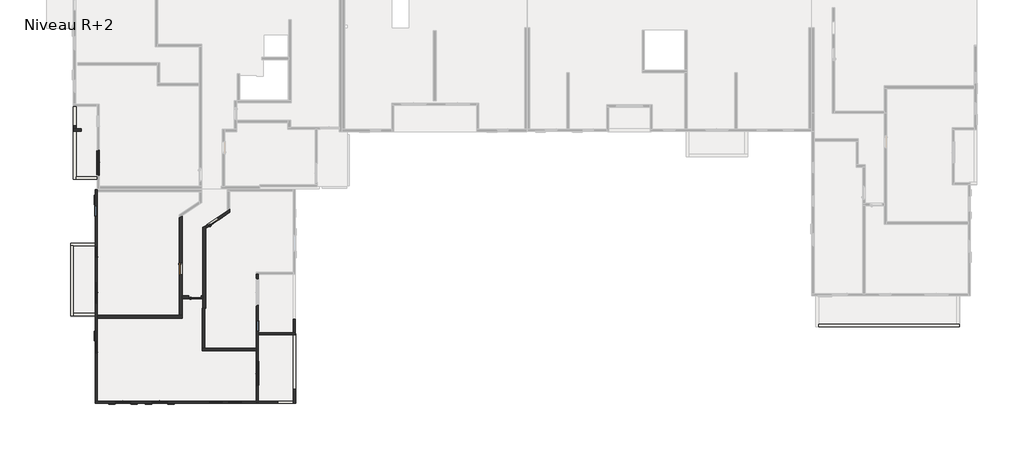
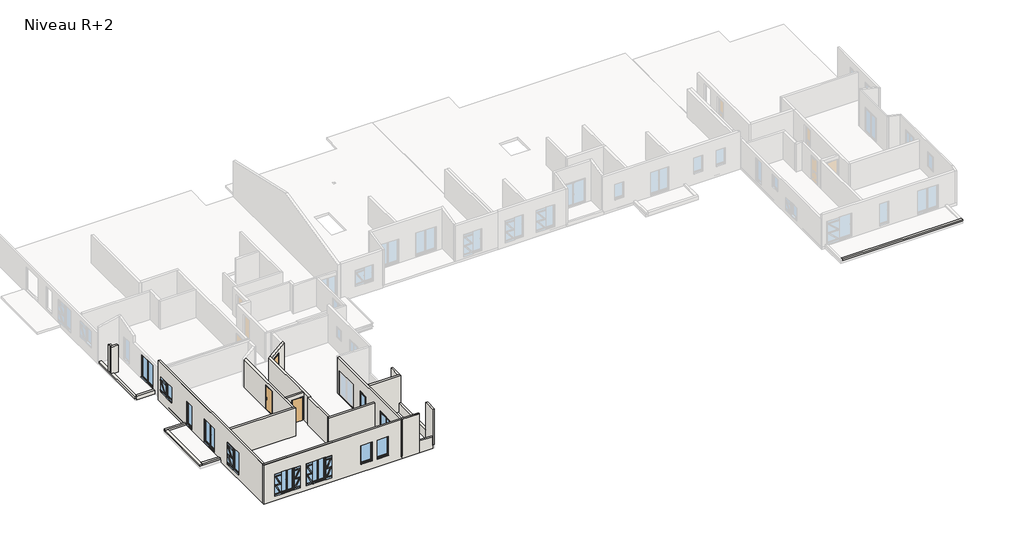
# One storey, part 1 of 7: 24 walls, 11 windows, 3 doors.
"""IFC4 building model written with IfcOpenShell, lengths in millimetres."""

from ifc_helpers import new_model, si_unit, frame, origin, place, context, project, spatial, polyline, outline, extrude, faceted_brep, transform, mapped, element, save
from components import door_6208809c, window_f6eb430b, window_0_80m_x_2_05m_45d8a1b5, window_0_80m_x_2_15m_73fb6ae2, window_1_vantail_droit_db0ce4d6, window_1_00m_x_1_75m_f7db58c6, window_1_10m_x_2_05m_0457a856, window_1_60m_x_2_15m_1bfb613b, window_1_80m_x_2_15m_7d3a4370

model = new_model("IFC4")

# Units and contexts
model_context = context("Model", 3, world=origin())
ifc_project = project(units=[si_unit("LENGTHUNIT", "METRE", prefix="MILLI")], contexts=[model_context])

# Site, building, storey
site = spatial("IfcSite", under=ifc_project)
building = spatial("IfcBuilding", under=site)
storey = spatial("IfcBuildingStorey", under=building, Name="Niveau R+2", Elevation=6120.0)

# Doors
placement = place(None, origin())
door_shape = door_6208809c(model_context)
element("IfcDoor", 1, ObjectType="Entrée (avec angle d'ouverture) : PP Lisse (0.90 m x 2.15 m)", at=placement, inside=storey, context=model_context, shape_type="MappedRepresentation", body=[
    mapped(door_shape, transform((12738.9344904, 1911.6114807, 6120.0), x_axis=(1.0, 0.0, 0.0), y_axis=(0.0, 1.0, 0.0), z_axis=(0.0, 0.0, 1.0))),
])
element("IfcDoor", 2, ObjectType="Entrée (avec angle d'ouverture) : PP Lisse (0.90 m x 2.15 m)", at=placement, inside=storey, context=model_context, shape_type="MappedRepresentation", body=[
    mapped(door_shape, transform((11654.0730744, 4064.6107801, 6120.0), x_axis=(0.0, -1.0, 0.0), y_axis=(1.0, 0.0, 0.0), z_axis=(0.0, 0.0, 1.0))),
])
element("IfcDoor", 3, ObjectType="Entrée (avec angle d'ouverture) : PP Lisse (0.90 m x 2.15 m)", at=placement, inside=storey, context=model_context, shape_type="MappedRepresentation", body=[
    mapped(door_shape, transform((14099.7641367, 7598.9331745, 6120.0), x_axis=(0.8253883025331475, 0.5645654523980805, 0.0), y_axis=(-0.5645654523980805, 0.8253883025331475, 0.0), z_axis=(0.0, 0.0, 1.0))),
])

# Walls
element("IfcWall", 4, ObjectType="Ext. Voile BA 16 + 2 + 2", at=placement, inside=storey, context=model_context, shape_type="Brep", body=[
    faceted_brep([(17442.934101, -6105.1620119, 5830.0), (17522.934101, -6105.1620119, 5830.0), (18982.9329233, -6105.1620119, 5830.0), (18982.9329233, -6105.1620119, 6920.0), (18982.9329233, -6105.1620119, 9490.0), (17442.934101, -6105.1620119, 9490.0), (17442.934101, -6105.1620119, 9450.0), (17522.934101, -6105.1620119, 9450.0), (17522.934101, -6105.1620119, 6030.0), (17442.934101, -6105.1620119, 6030.0), (17442.934101, -5945.1620119, 5830.0), (17442.934101, -5945.1620119, 6030.0), (17522.934101, -5945.1620119, 6030.0), (17522.934101, -5945.1620119, 9450.0), (17442.934101, -5945.1620119, 9450.0), (17442.934101, -5945.1620119, 9490.0), (18982.9329233, -5945.1620119, 9490.0), (18982.9329233, -5945.1620119, 6920.0), (18982.9329233, -5945.1620119, 5830.0), (17522.934101, -5945.1620119, 5830.0), (18982.9329233, -6068.9495262, 9490.0), (17442.934101, -6068.9495262, 9490.0)], [[[0, 1, 2, 3, 4, 5, 6, 7, 8, 9]], [[10, 11, 12, 13, 14, 15, 16, 17, 18, 19]], [[2, 1, 0, 10, 19, 18]], [[4, 3, 2, 18, 17, 16, 20]], [[20, 16, 15, 21]], [[5, 4, 20, 21]], [[0, 9, 11, 10]], [[8, 12, 11, 9]], [[6, 5, 21, 15, 14]], [[6, 14, 13, 7]], [[8, 7, 13, 12]]]),
])
element("IfcWall", 5, ObjectType="Ext. Voile BA 16 + 2 + 2", at=placement, inside=storey, context=model_context, shape_type="Brep", body=[
    faceted_brep([(20327.8598396, -6105.1620119, 6120.0), (20327.8598396, -5045.6481556, 6120.0), (20327.8598396, -5045.6481556, 6930.0), (20327.8598396, -5045.6481556, 9490.0), (20327.8598396, -6105.1620119, 9490.0), (20167.8598396, -6105.1620119, 6120.0), (20167.8598396, -6105.1620119, 6920.0), (20167.8598396, -6105.1620119, 9490.0), (20167.8598396, -5045.6481556, 9490.0), (20167.8598396, -5045.6481556, 6930.0), (20167.8598396, -5045.6481556, 6120.0), (20325.920738, -5045.6481556, 9490.0), (20325.920738, -6105.1620119, 9490.0)], [[[0, 1, 2, 3, 4]], [[5, 6, 7, 8, 9, 10]], [[1, 0, 5, 10]], [[3, 2, 1, 10, 9, 8, 11]], [[11, 8, 7, 12]], [[4, 3, 11, 12]], [[0, 4, 12, 7, 6, 5]]]),
])
element("IfcWall", 6, ObjectType="Ext. Voile BA 16 + 2 + 2", at=placement, inside=storey, context=model_context, shape_type="Brep", body=[
    faceted_brep([(17535.920738, -934.9801512, 6120.0), (20315.920738, -934.9801512, 6120.0), (20315.920738, -934.9801512, 9490.0), (17535.920738, -934.9801512, 9490.0), (17535.920738, -774.9801512, 6120.0), (17535.920738, -774.9801512, 9490.0), (20155.920738, -774.9801512, 9490.0), (20315.920738, -774.9801512, 9490.0), (20315.920738, -774.9801512, 6120.0), (20155.920738, -774.9801512, 6120.0)], [[[0, 1, 2, 3]], [[4, 5, 6, 7, 8, 9]], [[1, 0, 4, 9, 8]], [[3, 2, 7, 6, 5]], [[0, 3, 5, 4]], [[2, 1, 8, 7]]]),
])
element("IfcWall", 7, ObjectType="Ext. Voile BA 16 + 2 + 2", at=placement, inside=storey, context=model_context, shape_type="Brep", body=[
    faceted_brep([(20315.920738, -774.9801512, 6120.0), (20315.920738, 265.0198488, 6120.0), (20315.920738, 265.0198488, 6930.0), (20315.920738, 265.0198488, 9490.0), (20315.920738, -774.9801512, 9490.0), (20155.920738, -774.9801512, 6120.0), (20155.920738, -774.9801512, 9490.0), (20155.920738, 265.0198488, 9490.0), (20155.920738, 265.0198488, 6930.0), (20155.920738, 265.0198488, 6120.0)], [[[0, 1, 2, 3, 4]], [[5, 6, 7, 8, 9]], [[1, 0, 5, 9]], [[3, 2, 1, 9, 8, 7]], [[4, 3, 7, 6]], [[0, 4, 6, 5]]]),
])
element("IfcWall", 8, ObjectType="Ext. Voile BA 16 + 2 + 2", at=placement, inside=storey, context=model_context, shape_type="Brep", body=[
    faceted_brep([(20327.8598396, -5045.6481556, 6030.0), (20327.8598396, -834.9801512, 6030.0), (20327.8598396, -834.9801512, 6930.0), (20327.8598396, -5045.6481556, 6930.0), (20327.8598396, -5045.6481556, 6120.0), (20167.8598396, -5045.6481556, 6030.0), (20167.8598396, -5045.6481556, 6120.0), (20167.8598396, -5045.6481556, 6930.0), (20167.8598396, -834.9801512, 6930.0), (20167.8598396, -834.9801512, 6030.0)], [[[0, 1, 2, 3, 4]], [[5, 6, 7, 8, 9]], [[1, 0, 5, 9]], [[2, 1, 9, 8]], [[3, 2, 8, 7]], [[0, 4, 3, 7, 6, 5]]]),
])
element("IfcWall", 9, ObjectType="Ext. Voile BA 16 + 2 + 2", at=placement, inside=storey, context=model_context, shape_type="Brep", body=[
    faceted_brep([(18982.9329233, -6105.1620119, 5830.0), (20167.8598396, -6105.1620119, 5830.0), (20167.8598396, -6105.1620119, 6120.0), (20167.8598396, -6105.1620119, 6920.0), (18982.9329233, -6105.1620119, 6920.0), (18982.9329233, -5945.1620119, 5830.0), (18982.9329233, -5945.1620119, 6920.0), (20167.8598396, -5945.1620119, 6920.0), (20167.8598396, -5945.1620119, 5830.0)], [[[0, 1, 2, 3, 4]], [[5, 6, 7, 8]], [[1, 0, 5, 8]], [[4, 3, 7, 6]], [[0, 4, 6, 5]], [[1, 8, 7, 3, 2]]]),
])
element("IfcWall", 10, ObjectType="Ext. Voile BA 16 + Isolant 120", at=placement, inside=storey, context=model_context, shape_type="Brep", body=[
    faceted_brep([(17362.934101, 3635.465256, 6030.0), (17362.934101, -1937.3575704, 6030.0), (17362.934101, -2137.3575704, 6030.0), (17362.934101, -5945.1620119, 6030.0), (17362.934101, -6105.1620119, 6030.0), (17362.934101, -6105.1620119, 9450.0), (17362.934101, -5945.1620119, 9450.0), (17362.934101, 3635.465256, 9450.0), (17362.934101, -4787.3575704, 6155.0), (17362.934101, -2887.3575704, 6155.0), (17362.934101, -2887.3575704, 8355.0), (17362.934101, -4787.3575704, 8355.0), (17362.934101, -710.0285448, 6855.0), (17362.934101, 189.9714552, 6855.0), (17362.934101, 189.9714552, 8355.0), (17362.934101, -710.0285448, 8355.0), (17362.934101, 1245.465256, 6155.0), (17362.934101, 3345.465256, 6155.0), (17362.934101, 3345.465256, 8355.0), (17362.934101, 1245.465256, 8355.0), (17522.934101, 3635.465256, 6030.0), (17522.934101, 3635.465256, 9450.0), (17522.934101, -5945.1620119, 9450.0), (17522.934101, -6105.1620119, 9450.0), (17522.934101, -6105.1620119, 6030.0), (17522.934101, -5945.1620119, 6030.0), (17522.934101, -2937.3575704, 8305.0), (17522.934101, -2937.3575704, 6146.5916612), (17522.934101, -4737.3575704, 6146.5916612), (17522.934101, -4737.3575704, 8305.0), (17522.934101, 139.9714552, 8305.0), (17522.934101, 139.9714552, 6775.0), (17522.934101, -660.0285448, 6775.0), (17522.934101, -660.0285448, 8305.0), (17522.934101, 3295.465256, 8305.0), (17522.934101, 3295.465256, 6146.5916612), (17522.934101, 1295.465256, 6146.5916612), (17522.934101, 1295.465256, 8305.0), (17442.934101, -6105.1620119, 6030.0), (17442.934101, -6105.1620119, 9450.0), (17442.934101, -2937.3575704, 6155.0), (17462.934101, -2937.3575704, 8305.0), (17462.934101, -2937.3575704, 6155.0), (17442.934101, -4737.3575704, 6155.0), (17462.934101, -4737.3575704, 6155.0), (17462.934101, -4737.3575704, 8305.0), (17462.934101, -2927.3575704, 6155.0), (17412.934101, -2927.3575704, 6155.0), (17412.934101, -2887.3575704, 6155.0), (17412.934101, -4787.3575704, 6155.0), (17412.934101, -4747.3575704, 6155.0), (17462.934101, -4747.3575704, 6155.0), (17412.934101, -2887.3575704, 8355.0), (17412.934101, -2927.3575704, 8315.0), (17412.934101, -4747.3575704, 8315.0), (17412.934101, -4787.3575704, 8355.0), (17462.934101, -2927.3575704, 8315.0), (17462.934101, -4747.3575704, 8315.0), (17442.934101, 139.9714552, 6855.0), (17442.934101, 139.9714552, 6775.0), (17462.934101, 139.9714552, 8305.0), (17462.934101, 139.9714552, 6855.0), (17442.934101, -660.0285448, 6775.0), (17442.934101, -660.0285448, 6855.0), (17462.934101, -660.0285448, 6855.0), (17462.934101, -660.0285448, 8305.0), (17462.934101, 149.9714552, 6855.0), (17412.934101, 149.9714552, 6855.0), (17412.934101, 189.9714552, 6855.0), (17412.934101, -710.0285448, 6855.0), (17412.934101, -670.0285448, 6855.0), (17462.934101, -670.0285448, 6855.0), (17412.934101, 189.9714552, 8355.0), (17412.934101, 149.9714552, 8315.0), (17412.934101, -670.0285448, 8315.0), (17412.934101, -710.0285448, 8355.0), (17462.934101, 149.9714552, 8315.0), (17462.934101, -670.0285448, 8315.0), (17442.934101, 3295.465256, 6155.0), (17462.934101, 3295.465256, 8305.0), (17462.934101, 3295.465256, 6155.0), (17442.934101, 1295.465256, 6155.0), (17462.934101, 1295.465256, 6155.0), (17462.934101, 1295.465256, 8305.0), (17462.934101, 3305.465256, 6155.0), (17412.934101, 3305.465256, 6155.0), (17412.934101, 3345.465256, 6155.0), (17412.934101, 1245.465256, 6155.0), (17412.934101, 1285.465256, 6155.0), (17462.934101, 1285.465256, 6155.0), (17412.934101, 3345.465256, 8355.0), (17412.934101, 3305.465256, 8315.0), (17412.934101, 1285.465256, 8315.0), (17412.934101, 1245.465256, 8355.0), (17462.934101, 3305.465256, 8315.0), (17462.934101, 1285.465256, 8315.0)], [[[0, 1, 2, 3, 4, 5, 6, 7], [8, 9, 10, 11], [12, 13, 14, 15], [16, 17, 18, 19]], [[20, 21, 22, 23, 24, 25], [26, 27, 28, 29], [30, 31, 32, 33], [34, 35, 36, 37]], [[4, 3, 2, 1, 0, 20, 25, 24, 38]], [[7, 6, 5, 39, 23, 22, 21]], [[0, 7, 21, 20]], [[40, 27, 26, 41, 42]], [[28, 43, 44, 45, 29]], [[40, 43, 28, 27]], [[26, 29, 45, 41]], [[43, 40, 42, 46, 47, 48, 9, 8, 49, 50, 51, 44]], [[9, 48, 52, 10]], [[48, 47, 53, 54, 50, 49, 55, 52]], [[47, 46, 56, 53]], [[46, 42, 41, 45, 44, 51, 57, 56]], [[10, 52, 55, 11]], [[54, 53, 56, 57]], [[55, 49, 8, 11]], [[50, 54, 57, 51]], [[58, 59, 31, 30, 60, 61]], [[62, 63, 64, 65, 33, 32]], [[59, 62, 32, 31]], [[59, 58, 63, 62]], [[30, 33, 65, 60]], [[63, 58, 61, 66, 67, 68, 13, 12, 69, 70, 71, 64]], [[13, 68, 72, 14]], [[68, 67, 73, 74, 70, 69, 75, 72]], [[67, 66, 76, 73]], [[66, 61, 60, 65, 64, 71, 77, 76]], [[14, 72, 75, 15]], [[74, 73, 76, 77]], [[75, 69, 12, 15]], [[70, 74, 77, 71]], [[78, 35, 34, 79, 80]], [[36, 81, 82, 83, 37]], [[78, 81, 36, 35]], [[34, 37, 83, 79]], [[81, 78, 80, 84, 85, 86, 17, 16, 87, 88, 89, 82]], [[17, 86, 90, 18]], [[86, 85, 91, 92, 88, 87, 93, 90]], [[85, 84, 94, 91]], [[84, 80, 79, 83, 82, 89, 95, 94]], [[18, 90, 93, 19]], [[92, 91, 94, 95]], [[93, 87, 16, 19]], [[88, 92, 95, 89]], [[5, 4, 38, 24, 23, 39]]]),
])
element("IfcWall", 11, ObjectType="Ext. Voile BA 16 + Isolant 120", at=placement, inside=storey, context=model_context, shape_type="Brep", body=[
    faceted_brep([(17442.934101, -5945.1620119, 5830.0), (17362.934101, -5945.1620119, 5830.0), (5344.2512184, -5945.1620119, 5830.0), (5184.2512184, -5945.1620119, 5830.0), (5184.2512184, -5945.1620119, 9490.0), (5204.2512184, -5945.1620119, 9490.0), (5344.2512184, -5945.1620119, 9490.0), (17442.934101, -5945.1620119, 9490.0), (17442.934101, -5945.1620119, 9450.0), (17362.934101, -5945.1620119, 9450.0), (17362.934101, -5945.1620119, 6030.0), (17442.934101, -5945.1620119, 6030.0), (6684.2512184, -5945.1620119, 6255.0), (7884.2512184, -5945.1620119, 6255.0), (7884.2512184, -5945.1620119, 8355.0), (6684.2512184, -5945.1620119, 8355.0), (9464.2512184, -5945.1620119, 6255.0), (10664.2512184, -5945.1620119, 6255.0), (10664.2512184, -5945.1620119, 8355.0), (9464.2512184, -5945.1620119, 8355.0), (13752.934101, -5945.1620119, 6555.0), (14852.934101, -5945.1620119, 6555.0), (14852.934101, -5945.1620119, 8355.0), (13752.934101, -5945.1620119, 8355.0), (15202.934101, -5945.1620119, 6555.0), (16302.934101, -5945.1620119, 6555.0), (16302.934101, -5945.1620119, 8355.0), (15202.934101, -5945.1620119, 8355.0), (17442.934101, -6105.1620119, 5830.0), (17442.934101, -6105.1620119, 6030.0), (17362.934101, -6105.1620119, 6030.0), (17362.934101, -6105.1620119, 9450.0), (17442.934101, -6105.1620119, 9450.0), (17442.934101, -6105.1620119, 9490.0), (5184.2512184, -6105.1620119, 9490.0), (5184.2512184, -6105.1620119, 5830.0), (17362.934101, -6105.1620119, 5830.0), (7834.2512184, -6105.1620119, 8305.0), (7834.2512184, -6105.1620119, 6246.5916612), (6734.2512184, -6105.1620119, 6246.5916612), (6734.2512184, -6105.1620119, 8305.0), (10614.2512184, -6105.1620119, 8305.0), (10614.2512184, -6105.1620119, 6246.5916612), (9514.2512184, -6105.1620119, 6246.5916612), (9514.2512184, -6105.1620119, 8305.0), (14802.934101, -6105.1620119, 8305.0), (14802.934101, -6105.1620119, 6546.5916612), (13802.934101, -6105.1620119, 6546.5916612), (13802.934101, -6105.1620119, 8305.0), (16252.934101, -6105.1620119, 8305.0), (16252.934101, -6105.1620119, 6546.5916612), (15252.934101, -6105.1620119, 6546.5916612), (15252.934101, -6105.1620119, 8305.0), (5184.2512184, -6068.9495262, 9490.0), (7834.2512184, -6025.1620119, 6255.0), (7834.2512184, -6045.1620119, 8305.0), (7834.2512184, -6045.1620119, 6255.0), (6734.2512184, -6025.1620119, 6255.0), (6734.2512184, -6045.1620119, 6255.0), (6734.2512184, -6045.1620119, 8305.0), (7844.2512184, -6045.1620119, 6255.0), (7844.2512184, -5995.1620119, 6255.0), (7884.2512184, -5995.1620119, 6255.0), (6684.2512184, -5995.1620119, 6255.0), (6724.2512184, -5995.1620119, 6255.0), (6724.2512184, -6045.1620119, 6255.0), (7884.2512184, -5995.1620119, 8355.0), (7844.2512184, -5995.1620119, 8315.0), (6724.2512184, -5995.1620119, 8315.0), (6684.2512184, -5995.1620119, 8355.0), (7844.2512184, -6045.1620119, 8315.0), (6724.2512184, -6045.1620119, 8315.0), (10614.2512184, -6025.1620119, 6255.0), (10614.2512184, -6045.1620119, 8305.0), (10614.2512184, -6045.1620119, 6255.0), (9514.2512184, -6025.1620119, 6255.0), (9514.2512184, -6045.1620119, 6255.0), (9514.2512184, -6045.1620119, 8305.0), (10624.2512184, -6045.1620119, 6255.0), (10624.2512184, -5995.1620119, 6255.0), (10664.2512184, -5995.1620119, 6255.0), (9464.2512184, -5995.1620119, 6255.0), (9504.2512184, -5995.1620119, 6255.0), (9504.2512184, -6045.1620119, 6255.0), (10664.2512184, -5995.1620119, 8355.0), (10624.2512184, -5995.1620119, 8315.0), (9504.2512184, -5995.1620119, 8315.0), (9464.2512184, -5995.1620119, 8355.0), (10624.2512184, -6045.1620119, 8315.0), (9504.2512184, -6045.1620119, 8315.0), (14802.934101, -6025.1620119, 6555.0), (14802.934101, -6045.1620119, 8305.0), (14802.934101, -6045.1620119, 6555.0), (13802.934101, -6025.1620119, 6555.0), (13802.934101, -6045.1620119, 6555.0), (13802.934101, -6045.1620119, 8305.0), (14812.934101, -6045.1620119, 6555.0), (14812.934101, -5995.1620119, 6555.0), (14852.934101, -5995.1620119, 6555.0), (13752.934101, -5995.1620119, 6555.0), (13792.934101, -5995.1620119, 6555.0), (13792.934101, -6045.1620119, 6555.0), (14852.934101, -5995.1620119, 8355.0), (14812.934101, -5995.1620119, 8315.0), (13792.934101, -5995.1620119, 8315.0), (13752.934101, -5995.1620119, 8355.0), (14812.934101, -6045.1620119, 8315.0), (13792.934101, -6045.1620119, 8315.0), (16252.934101, -6025.1620119, 6555.0), (16252.934101, -6045.1620119, 8305.0), (16252.934101, -6045.1620119, 6555.0), (15252.934101, -6025.1620119, 6555.0), (15252.934101, -6045.1620119, 6555.0), (15252.934101, -6045.1620119, 8305.0), (16262.934101, -6045.1620119, 6555.0), (16262.934101, -5995.1620119, 6555.0), (16302.934101, -5995.1620119, 6555.0), (15202.934101, -5995.1620119, 6555.0), (15242.934101, -5995.1620119, 6555.0), (15242.934101, -6045.1620119, 6555.0), (16302.934101, -5995.1620119, 8355.0), (16262.934101, -5995.1620119, 8315.0), (15242.934101, -5995.1620119, 8315.0), (15202.934101, -5995.1620119, 8355.0), (16262.934101, -6045.1620119, 8315.0), (15242.934101, -6045.1620119, 8315.0), (5204.2512184, -6068.9495262, 9490.0), (17442.934101, -6068.9495262, 9490.0)], [[[0, 1, 2, 3, 4, 5, 6, 7, 8, 9, 10, 11], [12, 13, 14, 15], [16, 17, 18, 19], [20, 21, 22, 23], [24, 25, 26, 27]], [[28, 29, 30, 31, 32, 33, 34, 35, 36], [37, 38, 39, 40], [41, 42, 43, 44], [45, 46, 47, 48], [49, 50, 51, 52]], [[3, 2, 1, 0, 28, 36, 35]], [[4, 3, 35, 34, 53]], [[54, 38, 37, 55, 56]], [[39, 57, 58, 59, 40]], [[54, 57, 39, 38]], [[37, 40, 59, 55]], [[57, 54, 56, 60, 61, 62, 13, 12, 63, 64, 65, 58]], [[13, 62, 66, 14]], [[62, 61, 67, 68, 64, 63, 69, 66]], [[61, 60, 70, 67]], [[60, 56, 55, 59, 58, 65, 71, 70]], [[14, 66, 69, 15]], [[68, 67, 70, 71]], [[69, 63, 12, 15]], [[64, 68, 71, 65]], [[72, 42, 41, 73, 74]], [[43, 75, 76, 77, 44]], [[72, 75, 43, 42]], [[41, 44, 77, 73]], [[75, 72, 74, 78, 79, 80, 17, 16, 81, 82, 83, 76]], [[17, 80, 84, 18]], [[80, 79, 85, 86, 82, 81, 87, 84]], [[79, 78, 88, 85]], [[78, 74, 73, 77, 76, 83, 89, 88]], [[18, 84, 87, 19]], [[86, 85, 88, 89]], [[87, 81, 16, 19]], [[82, 86, 89, 83]], [[90, 46, 45, 91, 92]], [[47, 93, 94, 95, 48]], [[90, 93, 47, 46]], [[45, 48, 95, 91]], [[93, 90, 92, 96, 97, 98, 21, 20, 99, 100, 101, 94]], [[21, 98, 102, 22]], [[98, 97, 103, 104, 100, 99, 105, 102]], [[97, 96, 106, 103]], [[96, 92, 91, 95, 94, 101, 107, 106]], [[22, 102, 105, 23]], [[104, 103, 106, 107]], [[105, 99, 20, 23]], [[100, 104, 107, 101]], [[108, 50, 49, 109, 110]], [[51, 111, 112, 113, 52]], [[108, 111, 51, 50]], [[49, 52, 113, 109]], [[111, 108, 110, 114, 115, 116, 25, 24, 117, 118, 119, 112]], [[25, 116, 120, 26]], [[116, 115, 121, 122, 118, 117, 123, 120]], [[115, 114, 124, 121]], [[114, 110, 109, 113, 112, 119, 125, 124]], [[26, 120, 123, 27]], [[122, 121, 124, 125]], [[123, 117, 24, 27]], [[118, 122, 125, 119]], [[7, 6, 5, 126, 127]], [[33, 127, 126, 5, 4, 53, 34]], [[0, 11, 29, 28]], [[8, 7, 127, 33, 32]], [[10, 9, 31, 30]], [[10, 30, 29, 11]], [[8, 32, 31, 9]]]),
])
element("IfcWall", 12, ObjectType="Ext. Voile BA 16 + Isolant 120", at=placement, inside=storey, context=model_context, shape_type="Brep", body=[
    faceted_brep([(5344.2512184, -5945.1620119, 5830.0), (5344.2512184, 10055.4625547, 5830.0), (5344.2512184, 10055.4625547, 6030.0), (5344.2512184, 10055.4625547, 8650.0), (5344.2512184, 10055.4625547, 8850.0), (5344.2512184, 10065.4658562, 8850.0), (5344.2512184, 10065.4658562, 9490.0), (5344.2512184, -5945.1620119, 9490.0), (5344.2512184, 8875.4658562, 6855.0), (5344.2512184, 7975.4658562, 6855.0), (5344.2512184, 7975.4658562, 8255.0), (5344.2512184, 8875.4658562, 8255.0), (5344.2512184, 5775.4658562, 6155.0), (5344.2512184, 4875.4658562, 6155.0), (5344.2512184, 4875.4658562, 8355.0), (5344.2512184, 5775.4658562, 8355.0), (5344.2512184, 3091.1262359, 6155.0), (5344.2512184, 1391.1262359, 6155.0), (5344.2512184, 1391.1262359, 8355.0), (5344.2512184, 3091.1262359, 8355.0), (5344.2512184, -1408.8737641, 6255.0), (5344.2512184, -2308.8737641, 6255.0), (5344.2512184, -2308.8737641, 8355.0), (5344.2512184, -1408.8737641, 8355.0), (5184.2512184, -5945.1620119, 5830.0), (5184.2512184, -5945.1620119, 9490.0), (5184.2512184, 10065.4658562, 9490.0), (5184.2512184, 10065.4658562, 8850.0), (5184.2512184, 10055.4625547, 8850.0), (5184.2512184, 10055.4625547, 5830.0), (5184.2512184, 8025.4658562, 8205.0), (5184.2512184, 8025.4658562, 6775.0), (5184.2512184, 8825.4658562, 6775.0), (5184.2512184, 8825.4658562, 8205.0), (5184.2512184, 4925.4658562, 8305.0), (5184.2512184, 4925.4658562, 6146.5916612), (5184.2512184, 5725.4658562, 6146.5916612), (5184.2512184, 5725.4658562, 8305.0), (5184.2512184, 1441.1262359, 8305.0), (5184.2512184, 1441.1262359, 6146.5916612), (5184.2512184, 3041.1262359, 6146.5916612), (5184.2512184, 3041.1262359, 8305.0), (5184.2512184, -2258.8737641, 8305.0), (5184.2512184, -2258.8737641, 6246.5916612), (5184.2512184, -1458.8737641, 6246.5916612), (5184.2512184, -1458.8737641, 8305.0), (5204.2512184, -5945.1620119, 9490.0), (5264.2512184, 8025.4658562, 6855.0), (5264.2512184, 8025.4658562, 6775.0), (5244.2512184, 8025.4658562, 8205.0), (5244.2512184, 8025.4658562, 6855.0), (5264.2512184, 8825.4658562, 6775.0), (5264.2512184, 8825.4658562, 6855.0), (5244.2512184, 8825.4658562, 6855.0), (5244.2512184, 8825.4658562, 8205.0), (5244.2512184, 8015.4658562, 6855.0), (5294.2512184, 8015.4658562, 6855.0), (5294.2512184, 7975.4658562, 6855.0), (5294.2512184, 8875.4658562, 6855.0), (5294.2512184, 8835.4658562, 6855.0), (5244.2512184, 8835.4658562, 6855.0), (5294.2512184, 7975.4658562, 8255.0), (5294.2512184, 8015.4658562, 8215.0), (5294.2512184, 8835.4658562, 8215.0), (5294.2512184, 8875.4658562, 8255.0), (5244.2512184, 8015.4658562, 8215.0), (5244.2512184, 8835.4658562, 8215.0), (5264.2512184, 4925.4658562, 6155.0), (5244.2512184, 4925.4658562, 8305.0), (5244.2512184, 4925.4658562, 6155.0), (5264.2512184, 5725.4658562, 6155.0), (5244.2512184, 5725.4658562, 6155.0), (5244.2512184, 5725.4658562, 8305.0), (5244.2512184, 4915.4658562, 6155.0), (5294.2512184, 4915.4658562, 6155.0), (5294.2512184, 4875.4658562, 6155.0), (5294.2512184, 5775.4658562, 6155.0), (5294.2512184, 5735.4658562, 6155.0), (5244.2512184, 5735.4658562, 6155.0), (5294.2512184, 4875.4658562, 8355.0), (5294.2512184, 4915.4658562, 8315.0), (5294.2512184, 5735.4658562, 8315.0), (5294.2512184, 5775.4658562, 8355.0), (5244.2512184, 4915.4658562, 8315.0), (5244.2512184, 5735.4658562, 8315.0), (5264.2512184, 1441.1262359, 6155.0), (5244.2512184, 1441.1262359, 8305.0), (5244.2512184, 1441.1262359, 6155.0), (5264.2512184, 3041.1262359, 6155.0), (5244.2512184, 3041.1262359, 6155.0), (5244.2512184, 3041.1262359, 8305.0), (5244.2512184, 1431.1262359, 6155.0), (5294.2512184, 1431.1262359, 6155.0), (5294.2512184, 1391.1262359, 6155.0), (5294.2512184, 3091.1262359, 6155.0), (5294.2512184, 3051.1262359, 6155.0), (5244.2512184, 3051.1262359, 6155.0), (5294.2512184, 1391.1262359, 8355.0), (5294.2512184, 1431.1262359, 8315.0), (5294.2512184, 3051.1262359, 8315.0), (5294.2512184, 3091.1262359, 8355.0), (5244.2512184, 1431.1262359, 8315.0), (5244.2512184, 3051.1262359, 8315.0), (5264.2512184, -2258.8737641, 6255.0), (5244.2512184, -2258.8737641, 8305.0), (5244.2512184, -2258.8737641, 6255.0), (5264.2512184, -1458.8737641, 6255.0), (5244.2512184, -1458.8737641, 6255.0), (5244.2512184, -1458.8737641, 8305.0), (5244.2512184, -2268.8737641, 6255.0), (5294.2512184, -2268.8737641, 6255.0), (5294.2512184, -2308.8737641, 6255.0), (5294.2512184, -1408.8737641, 6255.0), (5294.2512184, -1448.8737641, 6255.0), (5244.2512184, -1448.8737641, 6255.0), (5294.2512184, -2308.8737641, 8355.0), (5294.2512184, -2268.8737641, 8315.0), (5294.2512184, -1448.8737641, 8315.0), (5294.2512184, -1408.8737641, 8355.0), (5244.2512184, -2268.8737641, 8315.0), (5244.2512184, -1448.8737641, 8315.0), (5204.2512184, 10065.4658562, 9490.0)], [[[0, 1, 2, 3, 4, 5, 6, 7], [8, 9, 10, 11], [12, 13, 14, 15], [16, 17, 18, 19], [20, 21, 22, 23]], [[24, 25, 26, 27, 28, 29], [30, 31, 32, 33], [34, 35, 36, 37], [38, 39, 40, 41], [42, 43, 44, 45]], [[1, 0, 24, 29]], [[0, 7, 46, 25, 24]], [[47, 48, 31, 30, 49, 50]], [[51, 52, 53, 54, 33, 32]], [[48, 51, 32, 31]], [[30, 33, 54, 49]], [[52, 47, 50, 55, 56, 57, 9, 8, 58, 59, 60, 53]], [[9, 57, 61, 10]], [[57, 56, 62, 63, 59, 58, 64, 61]], [[56, 55, 65, 62]], [[55, 50, 49, 54, 53, 60, 66, 65]], [[10, 61, 64, 11]], [[63, 62, 65, 66]], [[64, 58, 8, 11]], [[59, 63, 66, 60]], [[67, 35, 34, 68, 69]], [[36, 70, 71, 72, 37]], [[67, 70, 36, 35]], [[34, 37, 72, 68]], [[70, 67, 69, 73, 74, 75, 13, 12, 76, 77, 78, 71]], [[13, 75, 79, 14]], [[75, 74, 80, 81, 77, 76, 82, 79]], [[74, 73, 83, 80]], [[73, 69, 68, 72, 71, 78, 84, 83]], [[14, 79, 82, 15]], [[81, 80, 83, 84]], [[82, 76, 12, 15]], [[77, 81, 84, 78]], [[85, 39, 38, 86, 87]], [[40, 88, 89, 90, 41]], [[85, 88, 40, 39]], [[38, 41, 90, 86]], [[88, 85, 87, 91, 92, 93, 17, 16, 94, 95, 96, 89]], [[17, 93, 97, 18]], [[93, 92, 98, 99, 95, 94, 100, 97]], [[92, 91, 101, 98]], [[91, 87, 86, 90, 89, 96, 102, 101]], [[18, 97, 100, 19]], [[99, 98, 101, 102]], [[100, 94, 16, 19]], [[95, 99, 102, 96]], [[103, 43, 42, 104, 105]], [[44, 106, 107, 108, 45]], [[103, 106, 44, 43]], [[42, 45, 108, 104]], [[106, 103, 105, 109, 110, 111, 21, 20, 112, 113, 114, 107]], [[21, 111, 115, 22]], [[111, 110, 116, 117, 113, 112, 118, 115]], [[110, 109, 119, 116]], [[109, 105, 104, 108, 107, 114, 120, 119]], [[22, 115, 118, 23]], [[117, 116, 119, 120]], [[118, 112, 20, 23]], [[113, 117, 120, 114]], [[4, 3, 2, 1, 29, 28]], [[6, 5, 27, 26, 121]], [[7, 6, 121, 46]], [[121, 26, 25, 46]], [[27, 5, 4, 28]], [[48, 47, 52, 51]]]),
])
element("IfcWall", 13, ObjectType="Ext. Voile BA 20", at=placement, inside=storey, context=model_context, shape_type="Brep", body=[
    faceted_brep([(59861.4596037, -332.6247642, 6030.0), (70497.0236897, -332.6247642, 6030.0), (70497.0236897, -332.6247642, 6180.0), (59861.4596037, -332.6247642, 6180.0), (59861.4596037, -132.6247642, 6030.0), (59861.4596037, -132.6247642, 6180.0), (70297.0236897, -132.6247642, 6180.0), (70497.0236897, -132.6247642, 6180.0), (70497.0236897, -132.6247642, 6030.0), (70297.0236897, -132.6247642, 6030.0)], [[[0, 1, 2, 3]], [[4, 5, 6, 7, 8, 9]], [[1, 0, 4, 9, 8]], [[3, 2, 7, 6, 5]], [[0, 3, 5, 4]], [[2, 1, 8, 7]]]),
])
element("IfcWall", 14, ObjectType="Ext. Voile BA 20 + 2 enduit", at=placement, inside=storey, context=model_context, shape_type="Brep", body=[
    faceted_brep([(3536.9058449, 16355.4652425, 6030.0), (3536.9058449, 10835.4652425, 6030.0), (3536.9058449, 10835.4652425, 6180.0), (3536.9058449, 16355.4652425, 6180.0), (3736.9058449, 16355.4652425, 6030.0), (3736.9058449, 16355.4652425, 6180.0), (3736.9058449, 11035.4652425, 6180.0), (3736.9058449, 10835.4652425, 6180.0), (3736.9058449, 10835.4652425, 6030.0)], [[[0, 1, 2, 3]], [[4, 5, 6, 7, 8]], [[1, 0, 4, 8]], [[3, 2, 7, 6, 5]], [[2, 1, 8, 7]], [[0, 3, 5, 4]]]),
])
element("IfcWall", 15, ObjectType="Ext. Voile BA 20 + 2 enduit", at=placement, inside=storey, context=model_context, shape_type="Brep", body=[
    faceted_brep([(3736.9058449, 10835.4652425, 5830.0), (5329.893812, 10835.4652425, 5830.0), (5329.893812, 10835.4652425, 6180.0), (3736.9058449, 10835.4652425, 6180.0), (3736.9058449, 10835.4652425, 6030.0), (3736.9058449, 11035.4652425, 6180.0), (5329.893812, 11035.4652425, 6180.0), (5329.893812, 11035.4652425, 6030.0), (3736.9058449, 11035.4652425, 6030.0), (3736.9058449, 10855.4652425, 5830.0), (5329.893812, 10855.4652425, 5830.0), (3736.9058449, 10855.4652425, 6030.0), (5329.893812, 10855.4652425, 6030.0)], [[[0, 1, 2, 3, 4]], [[5, 6, 7, 8]], [[1, 0, 9, 10]], [[3, 2, 6, 5]], [[0, 4, 3, 5, 8, 11, 9]], [[2, 1, 10, 12, 7, 6]], [[12, 11, 8, 7]], [[11, 12, 10, 9]]]),
])
element("IfcWall", 16, ObjectType="Voile BA 20", at=placement, inside=storey, context=model_context, shape_type="Brep", body=[
    faceted_brep([(17362.934101, -1937.3575704, 6030.0), (13465.9339903, -1937.3575704, 6030.0), (13265.9339903, -1937.3575704, 6030.0), (13265.9339903, -1937.3575704, 8650.0), (13465.9339903, -1937.3575704, 8650.0), (17362.934101, -1937.3575704, 8650.0), (17362.934101, -2137.3575704, 6030.0), (17362.934101, -2137.3575704, 8650.0), (13265.9339903, -2137.3575704, 8650.0), (13265.9339903, -2137.3575704, 6030.0)], [[[0, 1, 2, 3, 4, 5]], [[6, 7, 8, 9]], [[2, 1, 0, 6, 9]], [[5, 4, 3, 8, 7]], [[0, 5, 7, 6]], [[3, 2, 9, 8]]]),
])
element("IfcWall", 17, ObjectType="Voile BA 20", at=placement, inside=storey, context=model_context, shape_type="Brep", body=[
    faceted_brep([(13465.9339903, -1937.3575704, 6030.0), (13465.9339903, 1096.6940149, 6030.0), (13465.9339903, 1096.6940149, 8650.0), (13465.9339903, -1937.3575704, 8650.0), (13265.9339903, -1937.3575704, 6030.0), (13265.9339903, -1937.3575704, 8650.0), (13265.9339903, 1096.6940149, 8650.0), (13265.9339903, 1096.6940149, 6030.0), (13328.9344904, 1096.6940149, 6030.0), (13328.9344904, 1096.6940149, 8650.0)], [[[0, 1, 2, 3]], [[4, 5, 6, 7]], [[1, 0, 4, 7, 8]], [[2, 1, 8, 7, 6, 9]], [[3, 2, 9, 6, 5]], [[0, 3, 5, 4]]]),
])
element("IfcWall", 18, ObjectType="Voile BA 20", at=placement, inside=storey, context=model_context, shape_type="Brep", body=[
    faceted_brep([(5344.2512184, 341.1262359, 6030.0), (11754.0730744, 341.1262359, 6030.0), (11754.0730744, 341.1262359, 8650.0), (5344.2512184, 341.1262359, 8650.0), (5344.2512184, 541.1262359, 6030.0), (5344.2512184, 541.1262359, 8650.0), (11554.0730744, 541.1262359, 8650.0), (11754.0730744, 541.1262359, 8650.0), (11754.0730744, 541.1262359, 6030.0), (11554.0730744, 541.1262359, 6030.0)], [[[0, 1, 2, 3]], [[4, 5, 6, 7, 8, 9]], [[1, 0, 4, 9, 8]], [[3, 2, 7, 6, 5]], [[0, 3, 5, 4]], [[2, 1, 8, 7]]]),
])
element("IfcWall", 19, ObjectType="Voile BA 20", at=placement, inside=storey, context=model_context, shape_type="Brep", body=[
    faceted_brep([(4148.3371258, 14649.376496, 6120.0), (3748.3371258, 14649.376496, 6120.0), (3548.3371258, 14649.376496, 6120.0), (3548.3371258, 14649.376496, 8650.0), (3556.9098541, 14649.376496, 8650.0), (3748.3371258, 14649.376496, 8650.0), (4148.3371258, 14649.376496, 8650.0), (4148.3371258, 14449.376496, 6120.0), (4148.3371258, 14449.376496, 8650.0), (3556.9098541, 14449.376496, 8650.0), (3548.3371258, 14449.376496, 8650.0), (3548.3371258, 14449.376496, 6120.0)], [[[0, 1, 2, 3, 4, 5, 6]], [[7, 8, 9, 10, 11]], [[2, 1, 0, 7, 11]], [[0, 6, 8, 7]], [[3, 2, 11, 10]], [[4, 3, 10, 9]], [[6, 5, 4, 9, 8]]]),
])
element("IfcWall", 20, ObjectType="Voile BA 20", at=placement, inside=storey, context=model_context, shape_type="SweptSolid", body=[
    extrude(outline(polyline([(6120.0, 3748.3371258), (8650.0, 3748.3371258), (8650.0, 3556.9098541), (8650.0, 3548.3371258), (6120.0, 3548.3371258), (6120.0, 3748.3371258)])), frame((0.0, 14649.376496, 0.0), z_axis=(0.0, 1.0, 0.0), x_axis=(0.0, 0.0, 1.0)), (0.0, 0.0, 1.0), 240.0),
])
element("IfcWall", 21, ObjectType="Voile BA 20", at=placement, inside=storey, context=model_context, shape_type="Brep", body=[
    faceted_brep([(5184.2512184, 6002.4700355, 6030.0), (3344.2538576, 6002.4700355, 6030.0), (3344.2538576, 6002.4700355, 6180.0), (5184.2512184, 6002.4700355, 6180.0), (5184.2512184, 5802.4700355, 6030.0), (5184.2512184, 5802.4700355, 6180.0), (3544.2538576, 5802.4700355, 6180.0), (3344.2538576, 5802.4700355, 6180.0), (3344.2538576, 5802.4700355, 6030.0), (3544.2538576, 5802.4700355, 6030.0)], [[[0, 1, 2, 3]], [[4, 5, 6, 7, 8, 9]], [[1, 0, 4, 9, 8]], [[3, 2, 7, 6, 5]], [[0, 3, 5, 4]], [[2, 1, 8, 7]]]),
])
element("IfcWall", 22, ObjectType="Voile BA 20", at=placement, inside=storey, context=model_context, shape_type="Brep", body=[
    faceted_brep([(3344.2538576, 5802.4700355, 6030.0), (3344.2538576, 502.4700355, 6030.0), (3344.2538576, 502.4700355, 6180.0), (3344.2538576, 5802.4700355, 6180.0), (3544.2538576, 5802.4700355, 6030.0), (3544.2538576, 5802.4700355, 6180.0), (3544.2538576, 702.4700355, 6180.0), (3544.2538576, 502.4700355, 6180.0), (3544.2538576, 502.4700355, 6030.0), (3544.2538576, 702.4700355, 6030.0)], [[[0, 1, 2, 3]], [[4, 5, 6, 7, 8, 9]], [[1, 0, 4, 9, 8]], [[3, 2, 7, 6, 5]], [[0, 3, 5, 4]], [[2, 1, 8, 7]]]),
])
element("IfcWall", 23, ObjectType="Voile BA 20", at=placement, inside=storey, context=model_context, shape_type="SweptSolid", body=[
    extrude(outline(polyline([(5144.2538576, 502.4700355), (3544.2538576, 502.4700355), (3544.2538576, 702.4700355), (5144.2538576, 702.4700355), (5144.2538576, 502.4700355)])), frame((0.0, 0.0, 6030.0), z_axis=(0.0, 0.0, 1.0), x_axis=(1.0, 0.0, 0.0)), (0.0, 0.0, 1.0), 150.0),
])
element("IfcWall", 24, ObjectType="Voile BA 20 + Isolant 60", at=placement, inside=storey, context=model_context, shape_type="Brep", body=[
    faceted_brep([(13528.9344904, 1096.6940149, 6030.0), (13528.9344904, 7087.3307006, 6030.0), (13528.9344904, 7329.6408949, 6030.0), (13528.9344904, 7329.6408949, 8650.0), (13528.9344904, 7087.3307006, 8650.0), (13528.9344904, 1096.6940149, 8650.0), (13328.9344904, 1096.6940149, 6030.0), (13328.9344904, 1096.6940149, 8650.0), (13328.9344904, 1811.6114807, 8650.0), (13328.9344904, 2011.6114807, 8650.0), (13328.9344904, 7192.8409304, 8650.0), (13328.9344904, 7192.8409304, 6030.0), (13465.9339903, 1096.6940149, 6030.0), (13465.9339903, 1096.6940149, 8650.0)], [[[0, 1, 2, 3, 4, 5]], [[6, 7, 8, 9, 10, 11]], [[2, 1, 0, 12, 6, 11]], [[5, 4, 3, 10, 9, 8, 7, 13]], [[0, 5, 13, 7, 6, 12]], [[3, 2, 11, 10]]]),
])
element("IfcWall", 25, ObjectType="Voile BA 20 + Isolant 60", at=placement, inside=storey, context=model_context, shape_type="Brep", body=[
    faceted_brep([(13528.9344904, 7087.3307006, 6030.0), (15352.2580905, 8334.4837193, 6030.0), (15352.2580905, 8334.4837193, 8650.0), (13528.9344904, 7087.3307006, 8650.0), (13768.2881798, 7251.0485816, 6120.0), (13743.5265307, 7234.111618, 6120.0), (13743.5265307, 7234.111618, 8310.0), (14552.4070672, 7787.3857614, 8310.0), (14552.4070672, 7787.3857614, 6120.0), (14527.6454181, 7770.4487978, 6120.0), (15352.2580905, 8576.7939137, 6030.0), (15152.2580905, 8439.9939492, 6030.0), (13528.9344904, 7329.6408949, 6030.0), (13528.9344904, 7329.6408949, 8650.0), (15152.2580905, 8439.9939492, 8650.0), (15352.2580905, 8576.7939137, 8650.0), (14414.7323276, 7935.5264583, 8280.0), (13655.3750893, 7416.1262421, 8280.0), (13655.3750893, 7416.1262421, 6120.0), (14414.7323276, 7935.5264583, 6120.0), (14471.1888729, 7852.987628, 8280.0), (13711.8316345, 7333.5874118, 8280.0), (13711.8316345, 7333.5874118, 6120.0), (13699.45081, 7325.1189301, 6120.0), (13723.7271245, 7289.627233, 6120.0), (13711.3462999, 7281.1587513, 6120.0), (14520.2268364, 7834.4328946, 6120.0), (14507.8460119, 7825.9644128, 6120.0), (14483.5696974, 7861.4561098, 6120.0), (14471.1888729, 7852.987628, 6120.0), (13723.7271245, 7289.627233, 8295.0), (14507.8460119, 7825.9644128, 8295.0), (14520.2268364, 7834.4328946, 8310.0), (13711.3462999, 7281.1587513, 8310.0), (13699.45081, 7325.1189301, 8295.0), (14483.5696974, 7861.4561098, 8295.0)], [[[0, 1, 2, 3], [4, 5, 6, 7, 8, 9]], [[10, 11, 12, 13, 14, 15], [16, 17, 18, 19]], [[1, 0, 12, 11, 10]], [[3, 2, 15, 14, 13]], [[0, 3, 13, 12]], [[2, 1, 10, 15]], [[20, 21, 17, 16]], [[22, 23, 24, 25, 5, 4, 9, 8, 26, 27, 28, 29, 19, 18]], [[29, 20, 16, 19]], [[21, 22, 18, 17]], [[25, 24, 30, 31, 27, 26, 32, 33]], [[5, 25, 33, 6]], [[33, 32, 7, 6]], [[26, 8, 7, 32]], [[24, 23, 34, 30]], [[21, 20, 29, 28, 35, 34, 23, 22]], [[31, 30, 34, 35]], [[28, 27, 31, 35]]]),
])
element("IfcWall", 26, ObjectType="Voile BA 20 + Isolant 60", at=placement, inside=storey, context=model_context, shape_type="Brep", body=[
    faceted_brep([(11554.0730744, 7904.2073996, 6030.0), (11554.0730744, 541.1262359, 6030.0), (11554.0730744, 541.1262359, 8650.0), (11554.0730744, 7904.2073996, 8650.0), (11554.0730744, 4534.6107801, 6120.0), (11554.0730744, 4564.6107801, 6120.0), (11554.0730744, 4564.6107801, 8310.0), (11554.0730744, 3584.6107801, 8310.0), (11554.0730744, 3584.6107801, 6120.0), (11554.0730744, 3614.6107801, 6120.0), (11754.0730744, 541.1262359, 6030.0), (11754.0730744, 8041.0073641, 6030.0), (11754.0730744, 8041.0073641, 8650.0), (11754.0730744, 2011.6114807, 8650.0), (11754.0730744, 1811.6114807, 8650.0), (11754.0730744, 541.1262359, 8650.0), (11754.0730744, 3614.6107801, 8280.0), (11754.0730744, 4534.6107801, 8280.0), (11754.0730744, 4534.6107801, 6120.0), (11754.0730744, 3614.6107801, 6120.0), (11654.0730744, 3614.6107801, 8280.0), (11654.0730744, 4534.6107801, 8280.0), (11654.0730744, 4534.6107801, 6120.0), (11654.0730744, 4549.6107801, 6120.0), (11611.0730744, 4549.6107801, 6120.0), (11611.0730744, 4564.6107801, 6120.0), (11611.0730744, 3584.6107801, 6120.0), (11611.0730744, 3599.6107801, 6120.0), (11654.0730744, 3599.6107801, 6120.0), (11654.0730744, 3614.6107801, 6120.0), (11611.0730744, 4549.6107801, 8295.0), (11611.0730744, 3599.6107801, 8295.0), (11611.0730744, 3584.6107801, 8310.0), (11611.0730744, 4564.6107801, 8310.0), (11654.0730744, 4549.6107801, 8295.0), (11654.0730744, 3599.6107801, 8295.0)], [[[0, 1, 2, 3], [4, 5, 6, 7, 8, 9]], [[10, 11, 12, 13, 14, 15], [16, 17, 18, 19]], [[1, 0, 11, 10]], [[3, 2, 15, 14, 13, 12]], [[0, 3, 12, 11]], [[2, 1, 10, 15]], [[20, 21, 17, 16]], [[22, 23, 24, 25, 5, 4, 9, 8, 26, 27, 28, 29, 19, 18]], [[29, 20, 16, 19]], [[21, 22, 18, 17]], [[25, 24, 30, 31, 27, 26, 32, 33]], [[5, 25, 33, 6]], [[33, 32, 7, 6]], [[26, 8, 7, 32]], [[24, 23, 34, 30]], [[21, 20, 29, 28, 35, 34, 23, 22]], [[31, 30, 34, 35]], [[28, 27, 31, 35]]]),
])
element("IfcWall", 27, ObjectType="Voile BA 20 + Isolant 60", at=placement, inside=storey, context=model_context, shape_type="Brep", body=[
    faceted_brep([(13328.9344904, 1811.6114807, 8650.0), (11754.0730744, 1811.6114807, 8650.0), (11754.0730744, 1811.6114807, 6120.0), (12238.9344904, 1811.6114807, 6120.0), (12238.9344904, 1811.6114807, 8310.0), (13218.9344904, 1811.6114807, 8310.0), (13218.9344904, 1811.6114807, 6120.0), (13328.9344904, 1811.6114807, 6120.0), (11754.0730744, 2011.6114807, 8650.0), (13328.9344904, 2011.6114807, 8650.0), (13328.9344904, 2011.6114807, 6120.0), (13188.9344904, 2011.6114807, 6120.0), (13188.9344904, 2011.6114807, 8280.0), (12268.9344904, 2011.6114807, 8280.0), (12268.9344904, 2011.6114807, 6120.0), (11754.0730744, 2011.6114807, 6120.0), (12268.9344904, 1911.6114807, 6120.0), (12253.9344904, 1911.6114807, 6120.0), (12253.9344904, 1868.6114807, 6120.0), (12238.9344904, 1868.6114807, 6120.0), (13218.9344904, 1868.6114807, 6120.0), (13203.9344904, 1868.6114807, 6120.0), (13203.9344904, 1911.6114807, 6120.0), (13188.9344904, 1911.6114807, 6120.0), (13188.9344904, 1911.6114807, 8280.0), (12268.9344904, 1911.6114807, 8280.0), (13218.9344904, 1868.6114807, 8310.0), (12238.9344904, 1868.6114807, 8310.0), (12253.9344904, 1868.6114807, 8295.0), (13203.9344904, 1868.6114807, 8295.0), (12253.9344904, 1911.6114807, 8295.0), (13203.9344904, 1911.6114807, 8295.0)], [[[0, 1, 2, 3, 4, 5, 6, 7]], [[8, 9, 10, 11, 12, 13, 14, 15]], [[2, 15, 14, 16, 17, 18, 19, 3]], [[10, 7, 6, 20, 21, 22, 23, 11]], [[1, 0, 9, 8]], [[2, 1, 8, 15]], [[0, 7, 10, 9]], [[24, 25, 13, 12]], [[23, 24, 12, 11]], [[25, 16, 14, 13]], [[20, 26, 27, 19, 18, 28, 29, 21]], [[19, 27, 4, 3]], [[27, 26, 5, 4]], [[26, 20, 6, 5]], [[28, 18, 17, 30]], [[25, 24, 23, 22, 31, 30, 17, 16]], [[29, 28, 30, 31]], [[21, 29, 31, 22]]]),
])

# Windows
window_shape = window_f6eb430b(model_context)
element("IfcWindow", 28, ObjectType="1 Vantail droit - Volet et petits bois : 0.80m x 1.35m - Appui Béton", at=placement, inside=storey, context=model_context, shape_type="MappedRepresentation", body=[
    mapped(window_shape, transform((5264.2512184, 8425.4658562, 6055.0), x_axis=(0.0, 1.0, 0.0), y_axis=(-1.0, 0.0, 0.0), z_axis=(0.0, 0.0, 1.0))),
])
window_0_80m_x_2_05m_shape = window_0_80m_x_2_05m_45d8a1b5(model_context)
element("IfcWindow", 29, ObjectType="PF 1 Vantail droit - Volet et petits bois : 0.80m x 2.05m", at=placement, inside=storey, context=model_context, shape_type="MappedRepresentation", body=[
    mapped(window_0_80m_x_2_05m_shape, transform((5264.2512184, -1858.8737641, 6220.0), x_axis=(0.0, 1.0, 0.0), y_axis=(-1.0, 0.0, 0.0), z_axis=(0.0, 0.0, 1.0))),
])
window_0_80m_x_2_15m_shape = window_0_80m_x_2_15m_73fb6ae2(model_context)
element("IfcWindow", 30, ObjectType="PF 1 Vantail - Droite : 0.80m x 2.15m", at=placement, inside=storey, context=model_context, shape_type="MappedRepresentation", body=[
    mapped(window_0_80m_x_2_15m_shape, transform((5264.2512184, 5325.4658562, 6120.0), x_axis=(0.0, 1.0, 0.0), y_axis=(-1.0, 0.0, 0.0), z_axis=(0.0, 0.0, 1.0))),
])
window_1_vantail_droit_shape = window_1_vantail_droit_db0ce4d6(model_context)
element("IfcWindow", 31, ObjectType="1 Vantail - Droit : 0.80m x 1.45m - Appui Béton", at=placement, inside=storey, context=model_context, shape_type="MappedRepresentation", body=[
    mapped(window_1_vantail_droit_shape, transform((17442.934101, -260.0285448, 6055.0), x_axis=(0.0, -1.0, 0.0), y_axis=(1.0, 0.0, 0.0), z_axis=(0.0, 0.0, 1.0))),
])
window_1_00m_x_1_75m_shape = window_1_00m_x_1_75m_f7db58c6(model_context)
element("IfcWindow", 32, ObjectType="PF 1 Vantail - Droite : 1.00m x 1.75m", at=placement, inside=storey, context=model_context, shape_type="MappedRepresentation", body=[
    mapped(window_1_00m_x_1_75m_shape, transform((14302.934101, -6025.1620119, 6520.0), x_axis=(-1.0, 0.0, 0.0), y_axis=(0.0, -1.0, 0.0), z_axis=(0.0, 0.0, 1.0))),
])
element("IfcWindow", 33, ObjectType="PF 1 Vantail - Droite : 1.00m x 1.75m", at=placement, inside=storey, context=model_context, shape_type="MappedRepresentation", body=[
    mapped(window_1_00m_x_1_75m_shape, transform((15752.934101, -6025.1620119, 6520.0), x_axis=(-1.0, 0.0, 0.0), y_axis=(0.0, -1.0, 0.0), z_axis=(0.0, 0.0, 1.0))),
])
window_1_10m_x_2_05m_shape = window_1_10m_x_2_05m_0457a856(model_context)
element("IfcWindow", 34, ObjectType="PF 2 Vantaux droits - Volets et petits bois : 1.10m x 2.05m", at=placement, inside=storey, context=model_context, shape_type="MappedRepresentation", body=[
    mapped(window_1_10m_x_2_05m_shape, transform((7284.2512184, -6025.1620119, 6220.0), x_axis=(-1.0, 0.0, 0.0), y_axis=(0.0, -1.0, 0.0), z_axis=(0.0, 0.0, 1.0))),
])
element("IfcWindow", 35, ObjectType="PF 2 Vantaux droits - Volets et petits bois : 1.10m x 2.05m", at=placement, inside=storey, context=model_context, shape_type="MappedRepresentation", body=[
    mapped(window_1_10m_x_2_05m_shape, transform((10064.2512184, -6025.1620119, 6220.0), x_axis=(-1.0, 0.0, 0.0), y_axis=(0.0, -1.0, 0.0), z_axis=(0.0, 0.0, 1.0))),
])
window_1_60m_x_2_15m_shape = window_1_60m_x_2_15m_1bfb613b(model_context)
element("IfcWindow", 36, ObjectType="PF 2 Vantaux - Droits : 1.60m x 2.15m", at=placement, inside=storey, context=model_context, shape_type="MappedRepresentation", body=[
    mapped(window_1_60m_x_2_15m_shape, transform((5264.2512184, 2241.1262359, 6120.0), x_axis=(0.0, 1.0, 0.0), y_axis=(-1.0, 0.0, 0.0), z_axis=(0.0, 0.0, 1.0))),
])
window_1_80m_x_2_15m_shape = window_1_80m_x_2_15m_7d3a4370(model_context)
element("IfcWindow", 37, ObjectType="PF 2 Vantaux - Droits : 1.80m x 2.15m", at=placement, inside=storey, context=model_context, shape_type="MappedRepresentation", body=[
    mapped(window_1_80m_x_2_15m_shape, transform((5409.893812, 12085.465256, 6120.0), x_axis=(0.0, 1.0, 0.0), y_axis=(-1.0, 0.0, 0.0), z_axis=(0.0, 0.0, 1.0))),
])
element("IfcWindow", 38, ObjectType="PF 2 Vantaux - Droits : 1.80m x 2.15m", at=placement, inside=storey, context=model_context, shape_type="MappedRepresentation", body=[
    mapped(window_1_80m_x_2_15m_shape, transform((17442.934101, -3837.3575704, 6120.0), x_axis=(0.0, -1.0, 0.0), y_axis=(1.0, 0.0, 0.0), z_axis=(0.0, 0.0, 1.0))),
])

save(model, "model.ifc")
